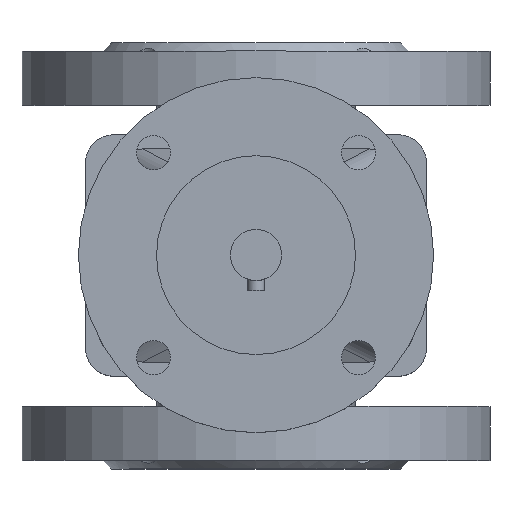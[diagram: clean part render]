
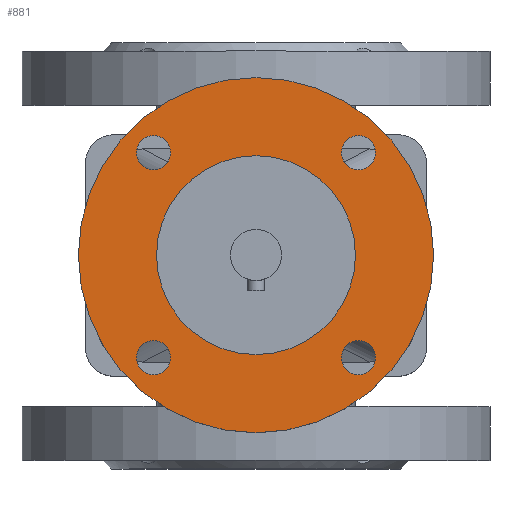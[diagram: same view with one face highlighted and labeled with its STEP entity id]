
A CAD part, top view. The second image highlights one B-rep face of the part: STEP entity #881.
In plain terms, the highlighted planar face has unit normal (0, 0, 1).
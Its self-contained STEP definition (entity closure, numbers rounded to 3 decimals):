
#881=ADVANCED_FACE('',(#1969,#1971,#1973,#1975,#1977,#1979),#1981,.T.);
#1969=FACE_BOUND('',#1970,.T.);
#1970=EDGE_LOOP('',(#2524));
#1971=FACE_BOUND('',#1972,.T.);
#1972=EDGE_LOOP('',(#2525));
#1973=FACE_BOUND('',#1974,.T.);
#1974=EDGE_LOOP('',(#2526));
#1975=FACE_BOUND('',#1976,.T.);
#1976=EDGE_LOOP('',(#2527));
#1977=FACE_BOUND('',#1978,.T.);
#1978=EDGE_LOOP('',(#2528));
#1979=FACE_BOUND('',#1980,.T.);
#1980=EDGE_LOOP('',(#2529));
#1981=PLANE('',#1982);
#1982=AXIS2_PLACEMENT_3D('',#1983,#1984,#1985);
#1983=CARTESIAN_POINT('',(0.,0.,169.));
#1984=DIRECTION('',(0.,0.,1.));
#1985=DIRECTION('',(-1.,0.,0.));
#2524=ORIENTED_EDGE('',*,*,#2792,.F.);
#2525=ORIENTED_EDGE('',*,*,#2793,.T.);
#2526=ORIENTED_EDGE('',*,*,#2794,.T.);
#2527=ORIENTED_EDGE('',*,*,#2795,.T.);
#2528=ORIENTED_EDGE('',*,*,#2797,.T.);
#2529=ORIENTED_EDGE('',*,*,#2796,.T.);
#2792=EDGE_CURVE('',#3203,#3203,#3204,.T.);
#2793=EDGE_CURVE('',#3205,#3205,#3206,.F.);
#2794=EDGE_CURVE('',#3207,#3207,#3208,.F.);
#2795=EDGE_CURVE('',#3209,#3209,#3210,.F.);
#2796=EDGE_CURVE('',#3211,#3211,#3212,.F.);
#2797=EDGE_CURVE('',#3213,#3213,#3214,.T.);
#3203=VERTEX_POINT('',#4734);
#3204=CIRCLE('',#4735,62.5);
#3205=VERTEX_POINT('',#4739);
#3206=CIRCLE('',#4740,6.);
#3207=VERTEX_POINT('',#4744);
#3208=CIRCLE('',#4745,6.);
#3209=VERTEX_POINT('',#4749);
#3210=CIRCLE('',#4750,6.);
#3211=VERTEX_POINT('',#4754);
#3212=CIRCLE('',#4755,6.);
#3213=VERTEX_POINT('',#4759);
#3214=CIRCLE('',#4760,35.);
#4734=CARTESIAN_POINT('',(-62.5,0.,169.));
#4735=AXIS2_PLACEMENT_3D('',#4736,#4737,#4738);
#4736=CARTESIAN_POINT('',(0.,0.,169.));
#4737=DIRECTION('',(0.,0.,-1.));
#4738=DIRECTION('',(-1.,0.,0.));
#4739=CARTESIAN_POINT('',(36.062,30.062,169.));
#4740=AXIS2_PLACEMENT_3D('',#4741,#4742,#4743);
#4741=CARTESIAN_POINT('',(36.062,36.062,169.));
#4742=DIRECTION('',(0.,0.,1.));
#4743=DIRECTION('',(0.,-1.,0.));
#4744=CARTESIAN_POINT('',(-30.062,36.062,169.));
#4745=AXIS2_PLACEMENT_3D('',#4746,#4747,#4748);
#4746=CARTESIAN_POINT('',(-36.062,36.062,169.));
#4747=DIRECTION('',(0.,0.,1.));
#4748=DIRECTION('',(1.,0.,0.));
#4749=CARTESIAN_POINT('',(-36.062,-30.062,169.));
#4750=AXIS2_PLACEMENT_3D('',#4751,#4752,#4753);
#4751=CARTESIAN_POINT('',(-36.062,-36.062,169.));
#4752=DIRECTION('',(0.,0.,1.));
#4753=DIRECTION('',(0.,1.,0.));
#4754=CARTESIAN_POINT('',(30.062,-36.062,169.));
#4755=AXIS2_PLACEMENT_3D('',#4756,#4757,#4758);
#4756=CARTESIAN_POINT('',(36.062,-36.062,169.));
#4757=DIRECTION('',(0.,0.,1.));
#4758=DIRECTION('',(-1.,0.,0.));
#4759=CARTESIAN_POINT('',(-35.,0.,169.));
#4760=AXIS2_PLACEMENT_3D('',#4761,#4762,#4763);
#4761=CARTESIAN_POINT('',(0.,0.,169.));
#4762=DIRECTION('',(0.,0.,-1.));
#4763=DIRECTION('',(-1.,0.,0.));
